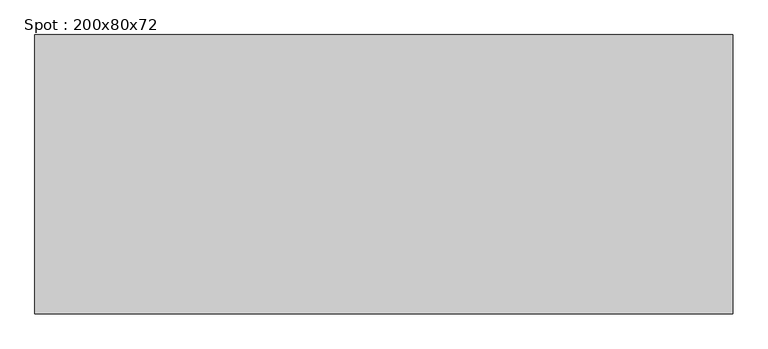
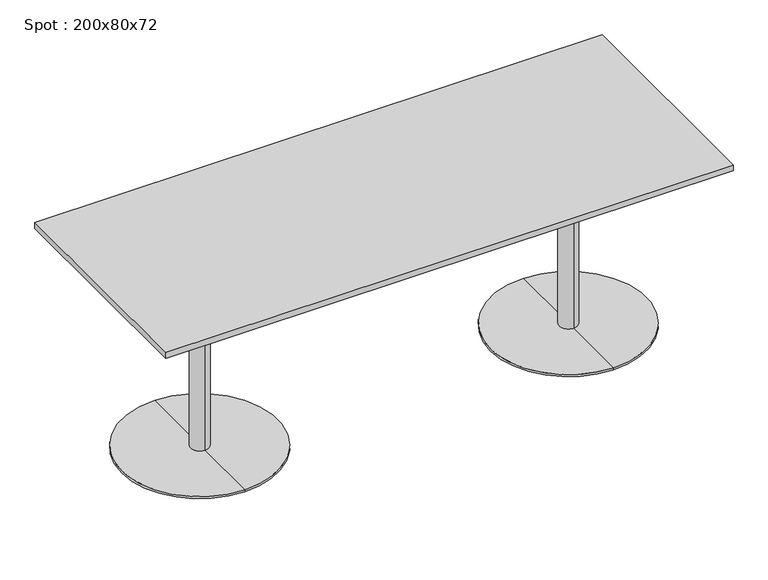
"""IFC4 building model written with IfcOpenShell, lengths in millimetres: furniture geometry, Spot : 200x80x72."""

from ifc_helpers import new_model, si_unit, frame, origin, place, context, project, spatial, polyline, circle_curve, outline, extrude, source, transform, mapped, element, save
from ifc_brep_helpers import plane_surface, cylinder_surface, revolved_surface, advanced_brep


def spot_200x80x72_1defbbfd(model_context):
    return source(origin(), model_context, "Body", "SolidModel", [
        extrude(outline(polyline([(1000.0, 400.0), (1000.0, -400.0), (-1000.0, -400.0), (-1000.0, 400.0), (1000.0, 400.0)])), frame((0.0, 0.0, 698.0), z_axis=(0.0, 0.0, 1.0), x_axis=(1.0, 0.0, 0.0)), (0.0, 0.0, 1.0), 22.0),
        advanced_brep(
        [(-650.0, 32.0, 10.0), (-650.0, -32.0, 10.0), (-650.0, -32.0, 667.406916), (-650.0, 32.0, 667.406916), (-650.0, 275.0, 10.0), (-650.0, -275.0, 10.0), (-650.0, 275.0, 2.0), (-650.0, -275.0, 2.0), (-650.0, 0.0, 2.0), (-650.0, 150.0, 698.0), (-650.0, -150.0, 698.0), (-650.0, 0.0, 698.0), (-650.0, 150.0, 686.7213673), (-650.0, -150.0, 686.7213673)],
        [
            (0, 1, circle_curve(frame((-650.0, 0.0, 10.0), z_axis=(0.0, 0.0, 1.0), x_axis=(0.0, -1.0, 0.0)), 32.0)),
            (1, 2),
            (2, 3, circle_curve(frame((-650.0, 0.0, 667.406916), z_axis=(0.0, 0.0, -1.0), x_axis=(0.0, -1.0, 0.0)), 32.0)),
            (3, 0),
            (1, 0, circle_curve(frame((-650.0, 0.0, 10.0), z_axis=(0.0, 0.0, 1.0), x_axis=(0.0, -1.0, 0.0)), 32.0)),
            (3, 2, circle_curve(frame((-650.0, 0.0, 667.406916), z_axis=(0.0, 0.0, -1.0), x_axis=(0.0, -1.0, 0.0)), 32.0)),
            (4, 5, circle_curve(frame((-650.0, 0.0, 10.0), z_axis=(0.0, 0.0, 1.0), x_axis=(0.0, -1.0, 0.0)), 275.0)),
            (5, 1),
            (0, 4),
            (5, 4, circle_curve(frame((-650.0, 0.0, 10.0), z_axis=(0.0, 0.0, 1.0), x_axis=(0.0, -1.0, 0.0)), 275.0)),
            (6, 7, circle_curve(frame((-650.0, 0.0, 2.0), z_axis=(0.0, 0.0, 1.0), x_axis=(0.0, -1.0, 0.0)), 275.0)),
            (7, 5),
            (4, 6),
            (7, 6, circle_curve(frame((-650.0, 0.0, 2.0), z_axis=(0.0, 0.0, 1.0), x_axis=(0.0, -1.0, 0.0)), 275.0)),
            (8, 7),
            (6, 8),
            (9, 10, circle_curve(frame((-650.0, 0.0, 698.0), z_axis=(0.0, 0.0, 1.0), x_axis=(0.0, -1.0, 0.0)), 150.0)),
            (10, 11),
            (11, 9),
            (10, 9, circle_curve(frame((-650.0, 0.0, 698.0), z_axis=(0.0, 0.0, 1.0), x_axis=(0.0, -1.0, 0.0)), 150.0)),
            (12, 13, circle_curve(frame((-650.0, 0.0, 686.7213673), z_axis=(0.0, 0.0, 1.0), x_axis=(0.0, -1.0, 0.0)), 150.0)),
            (13, 10),
            (9, 12),
            (13, 12, circle_curve(frame((-650.0, 0.0, 686.7213673), z_axis=(0.0, 0.0, 1.0), x_axis=(0.0, -1.0, 0.0)), 150.0)),
            (2, 13),
            (12, 3),
        ],
        [
            cylinder_surface(frame((-650.0, 0.0, 1060.0), z_axis=(0.0, 0.0, -1.0), x_axis=(0.0, -1.0, 0.0)), 32.0),
            plane_surface(frame((-650.0, 0.0, 10.0), z_axis=(0.0, 0.0, 1.0), x_axis=(0.0, -1.0, 0.0))),
            cylinder_surface(frame((-650.0, 0.0, 1060.0), z_axis=(0.0, 0.0, -1.0), x_axis=(0.0, -1.0, 0.0)), 275.0),
            plane_surface(frame((-650.0, 0.0, 2.0), z_axis=(0.0, 0.0, -1.0), x_axis=(0.0, -1.0, 0.0))),
            plane_surface(frame((-650.0, 0.0, 698.0), z_axis=(0.0, 0.0, 1.0), x_axis=(0.0, -1.0, 0.0))),
            cylinder_surface(frame((-650.0, 0.0, 1060.0), z_axis=(0.0, 0.0, -1.0), x_axis=(0.0, -1.0, 0.0)), 150.0),
            revolved_surface(polyline([(-650.0, -150.0, 686.7213673), (-650.0, -32.0, 667.406916)]), (-650.0, 0.0, 1060.0), (0.0, 0.0, -1.0)),
        ],
        [
            (0, [[1, 2, 3, 4]]),
            (0, [[5, -4, 6, -2]]),
            (1, [[7, 8, -1, 9]]),
            (1, [[10, -9, -5, -8]]),
            (2, [[11, 12, -7, 13]]),
            (2, [[14, -13, -10, -12]]),
            (3, [[15, -11, 16]]),
            (3, [[-16, -14, -15]]),
            (4, [[17, 18, 19]]),
            (4, [[20, -19, -18]]),
            (5, [[21, 22, -17, 23]]),
            (5, [[24, -23, -20, -22]]),
            (6, [[-3, 25, -21, 26]]),
            (6, [[-6, -26, -24, -25]]),
        ],
    ),
        advanced_brep(
        [(650.0, 32.0, 10.0), (650.0, -32.0, 10.0), (650.0, -32.0, 667.406916), (650.0, 32.0, 667.406916), (650.0, 275.0, 10.0), (650.0, -275.0, 10.0), (650.0, 275.0, 2.0), (650.0, -275.0, 2.0), (650.0, 0.0, 2.0), (650.0, 150.0, 698.0), (650.0, -150.0, 698.0), (650.0, 0.0, 698.0), (650.0, 150.0, 686.7213673), (650.0, -150.0, 686.7213673)],
        [
            (0, 1, circle_curve(frame((650.0, 0.0, 10.0), z_axis=(0.0, 0.0, 1.0), x_axis=(0.0, -1.0, 0.0)), 32.0)),
            (1, 2),
            (2, 3, circle_curve(frame((650.0, 0.0, 667.406916), z_axis=(0.0, 0.0, -1.0), x_axis=(0.0, -1.0, 0.0)), 32.0)),
            (3, 0),
            (1, 0, circle_curve(frame((650.0, 0.0, 10.0), z_axis=(0.0, 0.0, 1.0), x_axis=(0.0, -1.0, 0.0)), 32.0)),
            (3, 2, circle_curve(frame((650.0, 0.0, 667.406916), z_axis=(0.0, 0.0, -1.0), x_axis=(0.0, -1.0, 0.0)), 32.0)),
            (4, 5, circle_curve(frame((650.0, 0.0, 10.0), z_axis=(0.0, 0.0, 1.0), x_axis=(0.0, -1.0, 0.0)), 275.0)),
            (5, 1),
            (0, 4),
            (5, 4, circle_curve(frame((650.0, 0.0, 10.0), z_axis=(0.0, 0.0, 1.0), x_axis=(0.0, -1.0, 0.0)), 275.0)),
            (6, 7, circle_curve(frame((650.0, 0.0, 2.0), z_axis=(0.0, 0.0, 1.0), x_axis=(0.0, -1.0, 0.0)), 275.0)),
            (7, 5),
            (4, 6),
            (7, 6, circle_curve(frame((650.0, 0.0, 2.0), z_axis=(0.0, 0.0, 1.0), x_axis=(0.0, -1.0, 0.0)), 275.0)),
            (8, 7),
            (6, 8),
            (9, 10, circle_curve(frame((650.0, 0.0, 698.0), z_axis=(0.0, 0.0, 1.0), x_axis=(0.0, -1.0, 0.0)), 150.0)),
            (10, 11),
            (11, 9),
            (10, 9, circle_curve(frame((650.0, 0.0, 698.0), z_axis=(0.0, 0.0, 1.0), x_axis=(0.0, -1.0, 0.0)), 150.0)),
            (12, 13, circle_curve(frame((650.0, 0.0, 686.7213673), z_axis=(0.0, 0.0, 1.0), x_axis=(0.0, -1.0, 0.0)), 150.0)),
            (13, 10),
            (9, 12),
            (13, 12, circle_curve(frame((650.0, 0.0, 686.7213673), z_axis=(0.0, 0.0, 1.0), x_axis=(0.0, -1.0, 0.0)), 150.0)),
            (2, 13),
            (12, 3),
        ],
        [
            cylinder_surface(frame((650.0, 0.0, 1060.0), z_axis=(0.0, 0.0, -1.0), x_axis=(0.0, -1.0, 0.0)), 32.0),
            plane_surface(frame((650.0, 0.0, 10.0), z_axis=(0.0, 0.0, 1.0), x_axis=(0.0, -1.0, 0.0))),
            cylinder_surface(frame((650.0, 0.0, 1060.0), z_axis=(0.0, 0.0, -1.0), x_axis=(0.0, -1.0, 0.0)), 275.0),
            plane_surface(frame((650.0, 0.0, 2.0), z_axis=(0.0, 0.0, -1.0), x_axis=(0.0, -1.0, 0.0))),
            plane_surface(frame((650.0, 0.0, 698.0), z_axis=(0.0, 0.0, 1.0), x_axis=(0.0, -1.0, 0.0))),
            cylinder_surface(frame((650.0, 0.0, 1060.0), z_axis=(0.0, 0.0, -1.0), x_axis=(0.0, -1.0, 0.0)), 150.0),
            revolved_surface(polyline([(650.0, -150.0, 686.7213673), (650.0, -32.0, 667.406916)]), (650.0, 0.0, 1060.0), (0.0, 0.0, -1.0)),
        ],
        [
            (0, [[1, 2, 3, 4]]),
            (0, [[5, -4, 6, -2]]),
            (1, [[7, 8, -1, 9]]),
            (1, [[10, -9, -5, -8]]),
            (2, [[11, 12, -7, 13]]),
            (2, [[14, -13, -10, -12]]),
            (3, [[15, -11, 16]]),
            (3, [[-16, -14, -15]]),
            (4, [[17, 18, 19]]),
            (4, [[20, -19, -18]]),
            (5, [[21, 22, -17, 23]]),
            (5, [[24, -23, -20, -22]]),
            (6, [[-3, 25, -21, 26]]),
            (6, [[-6, -26, -24, -25]]),
        ],
    ),
    ])


if __name__ == "__main__":
    model = new_model("IFC4")
    model_context = context("Model", 3, world=origin())
    ifc_project = project(units=[si_unit("LENGTHUNIT", "METRE", prefix="MILLI")], contexts=[model_context])
    site = spatial("IfcSite", under=ifc_project)
    building = spatial("IfcBuilding", under=site)
    placement = place(None, origin())
    spot_200x80x72_shape = spot_200x80x72_1defbbfd(model_context)
    element("IfcFurniture", 1, ObjectType="Spot : 200x80x72", at=placement, inside=building, context=model_context, shape_type="MappedRepresentation", body=[
        mapped(spot_200x80x72_shape, transform((0.0, 0.0, 0.0), x_axis=(1.0, 0.0, 0.0), y_axis=(0.0, 1.0, 0.0), z_axis=(0.0, 0.0, 1.0))),
    ])
    save(model, "model.ifc")
